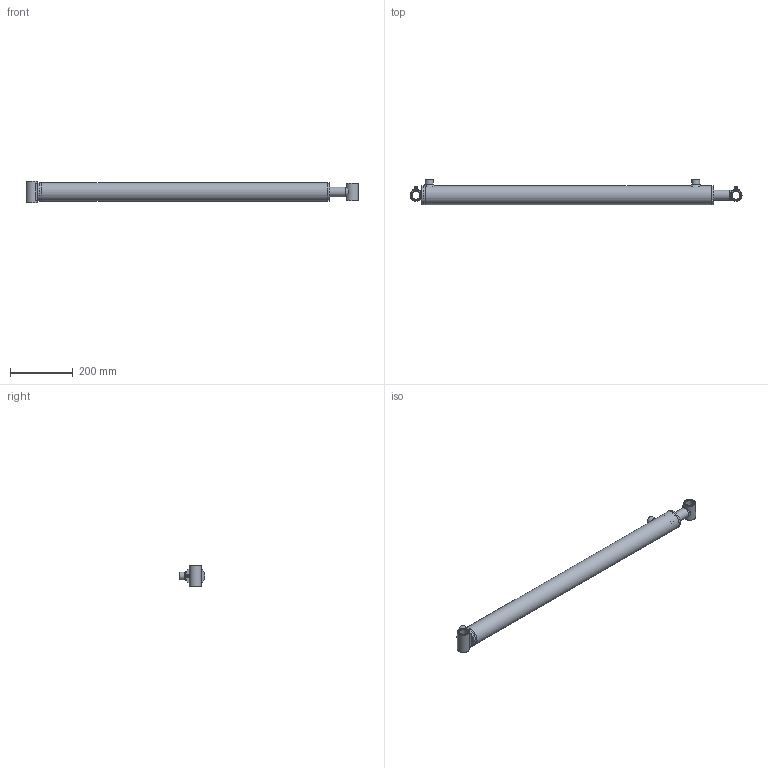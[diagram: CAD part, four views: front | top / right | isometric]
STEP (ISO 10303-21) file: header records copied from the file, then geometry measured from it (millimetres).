
FILE_DESCRIPTION(/* description */ (''),/* implementation_level */ '2;1');
FILE_NAME(/* name */ 'C:\01 - Philip\00 - Philip Rivard\01 - Contracts\Eagle Hydraulic Components\00 - 3D Cylinder\01 - Standard\HBU\HBU20XX\STEP\HBU2032.stp',/* time_stamp */ '2015-05-19T20:09:18-04:00',/* author */ ('Philip'),/* organization */ (''),/* preprocessor_version */ 'ST-DEVELOPER v16.1',/* originating_system */ 'Autodesk Inventor 2016',/* authorisation */ '');
FILE_SCHEMA (('AUTOMOTIVE_DESIGN { 1 0 10303 214 3 1 1 }'));
Length unit declared in the file: inch
Products named in the file (12): Tube_Welding_Welds; ECP-20-HBU; Tube; Straight_Port; Gland; Grease Fitting 1-8; Tube_Welding; Rod_Welding_Welds; Rod; Bushing; Rod_Welding; Cylinder_Assembly
Assembly tree (13 placements, depth 3):
  Cylinder_Assembly
    Tube_Welding
      Tube_Welding_Welds
      ECP-20-HBU
      Tube
      Straight_Port  x2
      Gland
      Grease Fitting 1-8
    Rod_Welding
      Rod_Welding_Welds
      Rod
      Bushing
      Grease Fitting 1-8
Bounding box: 1054.1 x 80.33 x 69.8 mm (x, y, z)
Volume: 1681854 mm3; surface area: 480475.1 mm2
Topology: 12 solids, 12 shells, 197 faces, 429 edges, 260 vertices
Faces by surface type: cone 65, plane 55, cylinder 50, torus 15, bspline 10, sphere 2
Full cylindrical faces by diameter (mm): 4 x2, 5 x1, 7.5 x2, 8 x2, 10 x2, 12.751 x2, 22 x1, 25 x4, 25.4 x2, 25.65 x2, 26 x1, 26.25 x1, 31.75 x2, 38.1 x2, 43 x1, 44.45 x1, 50.546 x1, 50.75 x1, 50.8 x1, 51 x1, 55 x4, 60.3 x1, 60.325 x1
Entity records: 6126 total; most frequent: CARTESIAN_POINT 2936, DIRECTION 631, ORIENTED_EDGE 486, AXIS2_PLACEMENT_3D 293, EDGE_LOOP 270, EDGE_CURVE 243, VERTEX_POINT 191, ADVANCED_FACE 157
